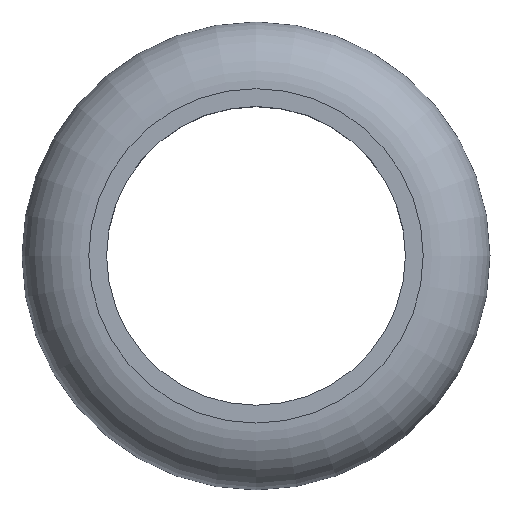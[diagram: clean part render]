
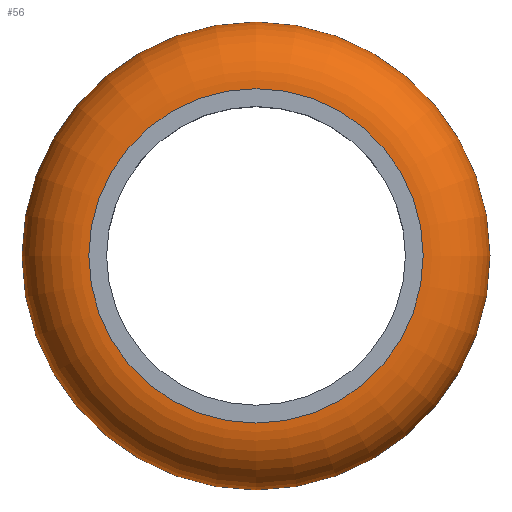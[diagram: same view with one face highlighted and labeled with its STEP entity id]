
A CAD part, top view. The second image highlights one B-rep face of the part: STEP entity #56.
In plain terms, the highlighted toroidal (fillet/blend) face has major radius 37.5 mm and minor radius 15 mm.
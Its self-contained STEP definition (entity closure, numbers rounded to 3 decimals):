
#56=ADVANCED_FACE('',(#84,#86),#88,.T.);
#84=FACE_OUTER_BOUND('',#85,.T.);
#85=EDGE_LOOP('',(#99));
#86=FACE_OUTER_BOUND('',#87,.T.);
#87=EDGE_LOOP('',(#100));
#88=TOROIDAL_SURFACE('',#89,37.5,15.);
#89=AXIS2_PLACEMENT_3D('',#90,#91,#92);
#90=CARTESIAN_POINT('',(0.,0.,-5.));
#91=DIRECTION('',(0.,0.,1.));
#92=DIRECTION('',(-1.,0.,0.));
#99=ORIENTED_EDGE('',*,*,#104,.F.);
#100=ORIENTED_EDGE('',*,*,#101,.T.);
#101=EDGE_CURVE('',#105,#105,#106,.T.);
#104=EDGE_CURVE('',#111,#111,#112,.T.);
#105=VERTEX_POINT('',#113);
#106=CIRCLE('',#114,37.5);
#111=VERTEX_POINT('',#128);
#112=CIRCLE('',#129,37.5);
#113=CARTESIAN_POINT('',(-37.5,0.,-20.));
#114=AXIS2_PLACEMENT_3D('',#115,#116,#117);
#115=CARTESIAN_POINT('',(0.,0.,-20.));
#116=DIRECTION('',(0.,0.,1.));
#117=DIRECTION('',(-1.,0.,0.));
#128=CARTESIAN_POINT('',(-37.5,0.,10.));
#129=AXIS2_PLACEMENT_3D('',#130,#131,#132);
#130=CARTESIAN_POINT('',(0.,0.,10.));
#131=DIRECTION('',(0.,0.,1.));
#132=DIRECTION('',(-1.,0.,0.));
